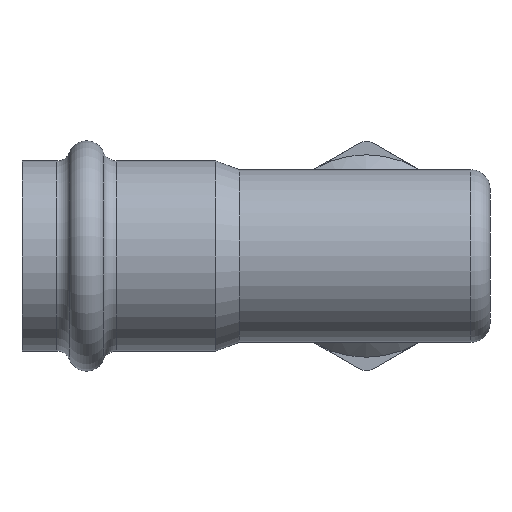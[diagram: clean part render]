
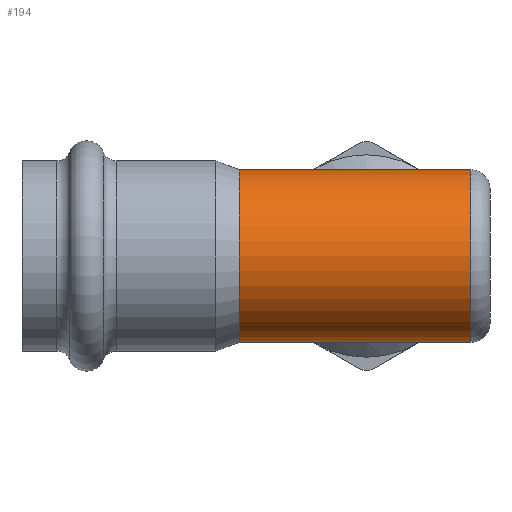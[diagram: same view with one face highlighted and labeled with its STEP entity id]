
A CAD part, front view. The second image highlights one B-rep face of the part: STEP entity #194.
In plain terms, the highlighted cylindrical face has radius 12.7 mm (diameter 25.4 mm), a full revolution.
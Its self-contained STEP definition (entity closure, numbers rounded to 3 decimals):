
#111=CYLINDRICAL_SURFACE('',#748,12.7);
#126=B_SPLINE_CURVE_WITH_KNOTS('',3,(#1095,#1096,#1097,#1098,#1099,#1100,
#1101,#1102,#1103,#1104,#1105,#1106,#1107,#1108,#1109,#1110,#1111,#1112,
#1113,#1114,#1115,#1116,#1117,#1118,#1119,#1120,#1121,#1122,#1123,#1124,
#1125,#1126,#1127,#1128),.UNSPECIFIED.,.T.,.F.,(2,2,2,2,2,2,2,2,2,2,2,2,
2,2,2,2,2,2,2),(-0.063,0.,0.062,0.125,0.188,0.25,0.313,0.375,
0.438,0.5,0.563,0.625,0.688,0.75,0.813,0.875,0.938,1.,1.063),.UNSPECIFIED.);
#131=FACE_BOUND('',#276,.T.);
#132=FACE_BOUND('',#277,.T.);
#133=FACE_BOUND('',#278,.T.);
#194=ADVANCED_FACE('',(#131,#132,#133),#111,.T.);
#276=EDGE_LOOP('',(#442));
#277=EDGE_LOOP('',(#443));
#278=EDGE_LOOP('',(#444));
#353=CIRCLE('',#746,12.7);
#354=CIRCLE('',#747,12.7);
#442=ORIENTED_EDGE('',*,*,#628,.T.);
#443=ORIENTED_EDGE('',*,*,#629,.T.);
#444=ORIENTED_EDGE('',*,*,#630,.F.);
#554=VERTEX_POINT('',#1129);
#555=VERTEX_POINT('',#1131);
#556=VERTEX_POINT('',#1133);
#628=EDGE_CURVE('',#554,#554,#126,.T.);
#629=EDGE_CURVE('',#555,#555,#353,.T.);
#630=EDGE_CURVE('',#556,#556,#354,.T.);
#746=AXIS2_PLACEMENT_3D('',#1130,#895,#896);
#747=AXIS2_PLACEMENT_3D('',#1132,#897,#898);
#748=AXIS2_PLACEMENT_3D('',#1134,#899,#900);
#895=DIRECTION('',(-1.,0.,0.));
#896=DIRECTION('',(0.,0.,1.));
#897=DIRECTION('',(-1.,0.,0.));
#898=DIRECTION('',(0.,0.,1.));
#899=DIRECTION('',(-1.,0.,0.));
#900=DIRECTION('',(0.,0.,1.));
#1095=CARTESIAN_POINT('',(1.479,7.57,10.197));
#1096=CARTESIAN_POINT('',(-1.479,7.57,10.197));
#1097=CARTESIAN_POINT('',(-2.903,7.965,9.918));
#1098=CARTESIAN_POINT('',(-5.452,9.042,8.948));
#1099=CARTESIAN_POINT('',(-6.578,9.697,8.271));
#1100=CARTESIAN_POINT('',(-8.568,10.951,6.521));
#1101=CARTESIAN_POINT('',(-9.4,11.538,5.473));
#1102=CARTESIAN_POINT('',(-10.633,12.423,2.955));
#1103=CARTESIAN_POINT('',(-10.993,12.695,1.5));
#1104=CARTESIAN_POINT('',(-11.007,12.705,-1.411));
#1105=CARTESIAN_POINT('',(-10.663,12.446,-2.864));
#1106=CARTESIAN_POINT('',(-9.445,11.569,-5.41));
#1107=CARTESIAN_POINT('',(-8.599,10.973,-6.485));
#1108=CARTESIAN_POINT('',(-6.623,9.724,-8.24));
#1109=CARTESIAN_POINT('',(-5.48,9.057,-8.933));
#1110=CARTESIAN_POINT('',(-2.945,7.98,-9.907));
#1111=CARTESIAN_POINT('',(-1.507,7.575,-10.194));
#1112=CARTESIAN_POINT('',(1.452,7.566,-10.2));
#1113=CARTESIAN_POINT('',(2.889,7.961,-9.921));
#1114=CARTESIAN_POINT('',(5.429,9.03,-8.959));
#1115=CARTESIAN_POINT('',(6.575,9.696,-8.273));
#1116=CARTESIAN_POINT('',(8.561,10.947,-6.528));
#1117=CARTESIAN_POINT('',(9.409,11.544,-5.461));
#1118=CARTESIAN_POINT('',(10.638,12.427,-2.94));
#1119=CARTESIAN_POINT('',(10.996,12.697,-1.482));
#1120=CARTESIAN_POINT('',(11.004,12.703,1.431));
#1121=CARTESIAN_POINT('',(10.658,12.442,2.882));
#1122=CARTESIAN_POINT('',(9.434,11.561,5.426));
#1123=CARTESIAN_POINT('',(8.585,10.963,6.5));
#1124=CARTESIAN_POINT('',(6.605,9.713,8.252));
#1125=CARTESIAN_POINT('',(5.46,9.046,8.943));
#1126=CARTESIAN_POINT('',(2.921,7.972,9.913));
#1127=CARTESIAN_POINT('',(1.479,7.57,10.197));
#1128=CARTESIAN_POINT('',(-1.479,7.57,10.197));
#1129=CARTESIAN_POINT('',(0.,7.57,10.197));
#1130=CARTESIAN_POINT('',(15.4,0.,0.));
#1131=CARTESIAN_POINT('',(15.4,0.,12.7));
#1132=CARTESIAN_POINT('',(-18.682,0.,0.));
#1133=CARTESIAN_POINT('',(-18.682,0.,12.7));
#1134=CARTESIAN_POINT('',(-10.,0.,0.));
